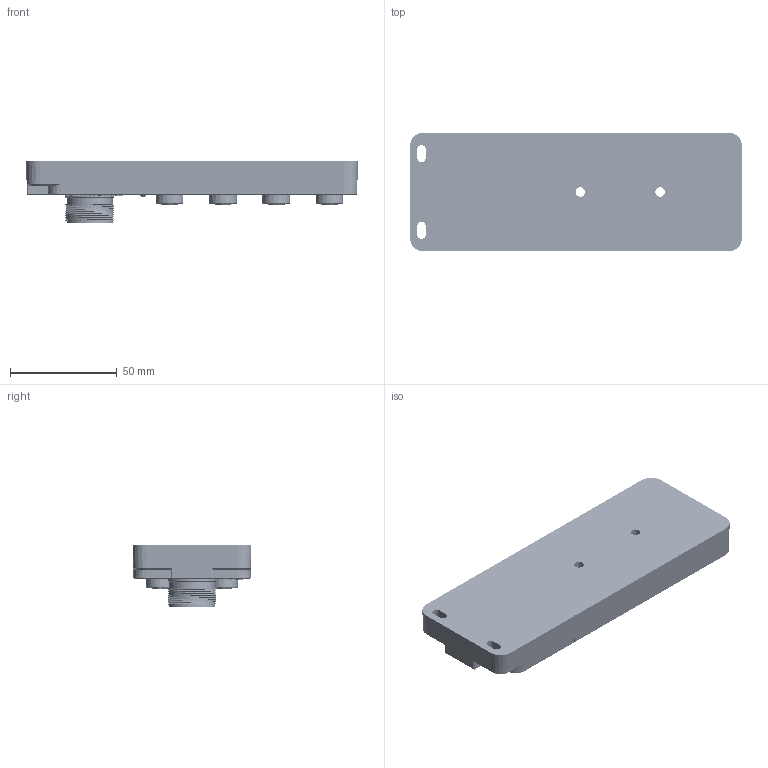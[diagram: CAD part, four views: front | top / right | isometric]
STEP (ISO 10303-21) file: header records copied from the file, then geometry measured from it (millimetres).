
FILE_DESCRIPTION(/* description */ (''),/* implementation_level */ '2;1');
FILE_NAME(/* name */ 'D8M12-5T-M23.stp',/* time_stamp */ '2018-04-18T10:31:14+08:00',/* author */ (''),/* organization */ (''),/* preprocessor_version */ 'ST-DEVELOPER v16',/* originating_system */ 'SIEMENS PLM Software NX 10.0',/* authorisation */ '');
FILE_SCHEMA (('AP203_CONFIGURATION_CONTROLLED_3D_DESIGN_OF_MECHANICAL_PARTS_AND_ASSEMBLIES_MIM_LF { 1 0 10303 403 2 1 2}'));
Products named in the file (1): 9147259C92A3cypx
Bounding box: 155.84 x 55.84 x 29 mm (x, y, z)
Volume: 126681.5 mm3; surface area: 63920.9 mm2
Topology: 10 solids, 111 shells, 2236 faces, 5915 edges, 3935 vertices
Faces by surface type: plane 1202, cylinder 651, cone 261, torus 45, sphere 36, extrusion 23, bspline 18
Full cylindrical faces by diameter (mm): 1 x35, 1.1 x54, 1.2 x40, 1.5 x3, 1.6 x3, 1.9 x48, 2 x128, 2.1 x80, 2.4 x9, 2.5 x9, 4.5 x2, 4.8 x1, 10 x2, 13 x8, 19.8 x1, 21 x1, 21.5 x2, 23 x1, 28 x1
Entity records: 76747 total; most frequent: CARTESIAN_POINT 25140, DIRECTION 10699, ORIENTED_EDGE 9596, EDGE_CURVE 4798, AXIS2_PLACEMENT_3D 4036, VERTEX_POINT 3519, EDGE_LOOP 3319, VECTOR 2627
